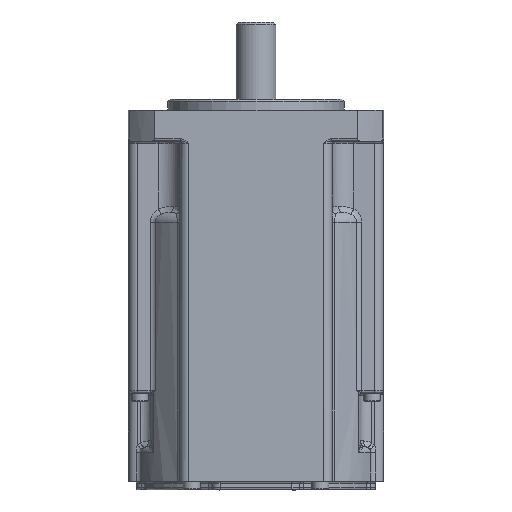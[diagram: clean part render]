
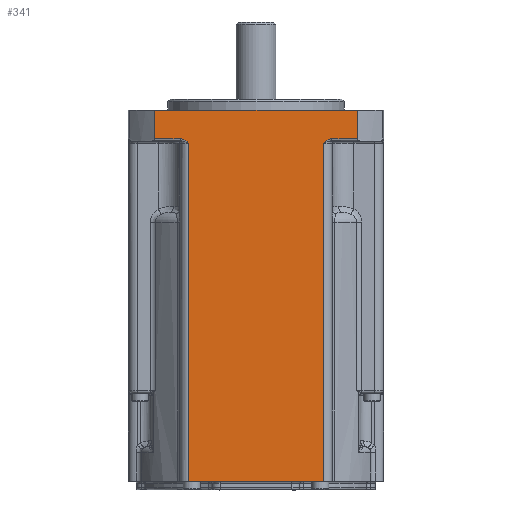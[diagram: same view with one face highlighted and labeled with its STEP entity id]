
A CAD part, front view. The second image highlights one B-rep face of the part: STEP entity #341.
In plain terms, the highlighted planar face has unit normal (0, -1, 0).
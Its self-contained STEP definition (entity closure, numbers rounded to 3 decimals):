
#41 = VERTEX_POINT ( 'NONE', #15378 ) ;
#81 = EDGE_CURVE ( 'NONE', #41, #350, #15494, .T. ) ;
#108 = ORIENTED_EDGE ( 'NONE', *, *, #81, .T. ) ;
#200 = ORIENTED_EDGE ( 'NONE', *, *, #297, .T. ) ;
#272 = ORIENTED_EDGE ( 'NONE', *, *, #9715, .F. ) ;
#290 = VERTEX_POINT ( 'NONE', #15336 ) ;
#291 = ORIENTED_EDGE ( 'NONE', *, *, #292, .T. ) ;
#292 = EDGE_CURVE ( 'NONE', #290, #294, #15335, .T. ) ;
#294 = VERTEX_POINT ( 'NONE', #15331 ) ;
#295 = EDGE_CURVE ( 'NONE', #355, #9694, #15329, .T. ) ;
#297 = EDGE_CURVE ( 'NONE', #9813, #41, #15330, .T. ) ;
#308 = EDGE_CURVE ( 'NONE', #350, #351, #15374, .T. ) ;
#333 = ORIENTED_EDGE ( 'NONE', *, *, #334, .T. ) ;
#334 = EDGE_CURVE ( 'NONE', #351, #358, #15572, .T. ) ;
#341 = ADVANCED_FACE ( 'NONE', ( #15716 ), #15713, .T. ) ;
#342 = EDGE_LOOP ( 'NONE', ( #344, #333, #359, #362, #291, #352, #356, #272, #200, #108 ) ) ;
#344 = ORIENTED_EDGE ( 'NONE', *, *, #308, .T. ) ;
#350 = VERTEX_POINT ( 'NONE', #15623 ) ;
#351 = VERTEX_POINT ( 'NONE', #15620 ) ;
#352 = ORIENTED_EDGE ( 'NONE', *, *, #354, .T. ) ;
#354 = EDGE_CURVE ( 'NONE', #294, #355, #15711, .T. ) ;
#355 = VERTEX_POINT ( 'NONE', #15710 ) ;
#356 = ORIENTED_EDGE ( 'NONE', *, *, #295, .T. ) ;
#358 = VERTEX_POINT ( 'NONE', #15712 ) ;
#359 = ORIENTED_EDGE ( 'NONE', *, *, #360, .T. ) ;
#360 = EDGE_CURVE ( 'NONE', #358, #361, #15701, .T. ) ;
#361 = VERTEX_POINT ( 'NONE', #15697 ) ;
#362 = ORIENTED_EDGE ( 'NONE', *, *, #363, .T. ) ;
#363 = EDGE_CURVE ( 'NONE', #361, #290, #15696, .T. ) ;
#3602 = CARTESIAN_POINT ( 'NONE',  ( -15.232, -29., -85. ) ) ;
#3748 = CARTESIAN_POINT ( 'NONE',  ( 15.232, -29., -85. ) ) ;
#3759 = DIRECTION ( 'NONE',  ( -1., 0., 0. ) ) ;
#3760 = VECTOR ( 'NONE', #3759, 1000. ) ;
#3761 = CARTESIAN_POINT ( 'NONE',  ( -17.215, -29., -85. ) ) ;
#3762 = LINE ( 'NONE', #3761, #3760 ) ;
#9694 = VERTEX_POINT ( 'NONE', #3602 ) ;
#9715 = EDGE_CURVE ( 'NONE', #9813, #9694, #3762, .T. ) ;
#9813 = VERTEX_POINT ( 'NONE', #3748 ) ;
#15326 = DIRECTION ( 'NONE',  ( 0., 0., -1. ) ) ;
#15327 = VECTOR ( 'NONE', #15326, 1000. ) ;
#15328 = CARTESIAN_POINT ( 'NONE',  ( -15.232, -29., -85. ) ) ;
#15329 = LINE ( 'NONE', #15328, #15327 ) ;
#15330 = LINE ( 'NONE', #15377, #15376 ) ;
#15331 = CARTESIAN_POINT ( 'NONE',  ( -17.226, -29., -7.304 ) ) ;
#15332 = DIRECTION ( 'NONE',  ( 1., 0., 0. ) ) ;
#15333 = VECTOR ( 'NONE', #15332, 1000. ) ;
#15334 = CARTESIAN_POINT ( 'NONE',  ( -15.232, -29., -7.304 ) ) ;
#15335 = LINE ( 'NONE', #15334, #15333 ) ;
#15336 = CARTESIAN_POINT ( 'NONE',  ( -22.978, -29., -7.304 ) ) ;
#15371 = DIRECTION ( 'NONE',  ( 1., 0., 0. ) ) ;
#15372 = VECTOR ( 'NONE', #15371, 1000. ) ;
#15373 = CARTESIAN_POINT ( 'NONE',  ( 25.277, -29., -7.304 ) ) ;
#15374 = LINE ( 'NONE', #15373, #15372 ) ;
#15375 = DIRECTION ( 'NONE',  ( 0., 0., 1. ) ) ;
#15376 = VECTOR ( 'NONE', #15375, 1000. ) ;
#15377 = CARTESIAN_POINT ( 'NONE',  ( 15.232, -29., -7.8 ) ) ;
#15378 = CARTESIAN_POINT ( 'NONE',  ( 15.232, -29., -8.296 ) ) ;
#15486 = CARTESIAN_POINT ( 'NONE',  ( 17.226, -29., -7.304 ) ) ;
#15487 = CARTESIAN_POINT ( 'NONE',  ( 17.035, -29., -7.304 ) ) ;
#15488 = CARTESIAN_POINT ( 'NONE',  ( 16.847, -29., -7.339 ) ) ;
#15489 = CARTESIAN_POINT ( 'NONE',  ( 16.485, -29., -7.454 ) ) ;
#15490 = CARTESIAN_POINT ( 'NONE',  ( 16.315, -29., -7.534 ) ) ;
#15491 = CARTESIAN_POINT ( 'NONE',  ( 15.823, -29., -7.815 ) ) ;
#15492 = CARTESIAN_POINT ( 'NONE',  ( 15.526, -29., -8.056 ) ) ;
#15493 = CARTESIAN_POINT ( 'NONE',  ( 15.232, -29., -8.296 ) ) ;
#15494 = B_SPLINE_CURVE_WITH_KNOTS ( 'NONE', 3,
 ( #15493, #15492, #15491, #15490, #15489, #15488, #15487, #15486 ),
 .UNSPECIFIED., .F., .F.,
 ( 4, 2, 2, 4 ),
 ( 0., 0.001, 0.002, 0.002 ),
 .UNSPECIFIED. ) ;
#15569 = DIRECTION ( 'NONE',  ( 0., 0., 1. ) ) ;
#15570 = VECTOR ( 'NONE', #15569, 1000. ) ;
#15571 = CARTESIAN_POINT ( 'NONE',  ( 22.978, -29., 4.953 ) ) ;
#15572 = LINE ( 'NONE', #15571, #15570 ) ;
#15620 = CARTESIAN_POINT ( 'NONE',  ( 22.978, -29., -7.304 ) ) ;
#15621 = DIRECTION ( 'NONE',  ( 1., 0., 0. ) ) ;
#15622 = DIRECTION ( 'NONE',  ( 0., -1., 0. ) ) ;
#15623 = CARTESIAN_POINT ( 'NONE',  ( 17.226, -29., -7.304 ) ) ;
#15693 = DIRECTION ( 'NONE',  ( 0., 0., -1. ) ) ;
#15694 = VECTOR ( 'NONE', #15693, 1000. ) ;
#15695 = CARTESIAN_POINT ( 'NONE',  ( -22.978, -29., 4.953 ) ) ;
#15696 = LINE ( 'NONE', #15695, #15694 ) ;
#15697 = CARTESIAN_POINT ( 'NONE',  ( -22.978, -29., -0.8 ) ) ;
#15698 = DIRECTION ( 'NONE',  ( -1., 0., 0. ) ) ;
#15699 = VECTOR ( 'NONE', #15698, 1000. ) ;
#15700 = CARTESIAN_POINT ( 'NONE',  ( -29., -29., -0.8 ) ) ;
#15701 = LINE ( 'NONE', #15700, #15699 ) ;
#15702 = CARTESIAN_POINT ( 'NONE',  ( -15.232, -29., -8.296 ) ) ;
#15703 = CARTESIAN_POINT ( 'NONE',  ( -15.525, -29., -8.056 ) ) ;
#15704 = CARTESIAN_POINT ( 'NONE',  ( -15.823, -29., -7.815 ) ) ;
#15705 = CARTESIAN_POINT ( 'NONE',  ( -16.315, -29., -7.534 ) ) ;
#15706 = CARTESIAN_POINT ( 'NONE',  ( -16.485, -29., -7.454 ) ) ;
#15707 = CARTESIAN_POINT ( 'NONE',  ( -16.847, -29., -7.339 ) ) ;
#15708 = CARTESIAN_POINT ( 'NONE',  ( -17.035, -29., -7.304 ) ) ;
#15709 = CARTESIAN_POINT ( 'NONE',  ( -17.226, -29., -7.304 ) ) ;
#15710 = CARTESIAN_POINT ( 'NONE',  ( -15.232, -29., -8.296 ) ) ;
#15711 = B_SPLINE_CURVE_WITH_KNOTS ( 'NONE', 3,
 ( #15709, #15708, #15707, #15706, #15705, #15704, #15703, #15702 ),
 .UNSPECIFIED., .F., .F.,
 ( 4, 2, 2, 4 ),
 ( 0., 0.001, 0.001, 0.002 ),
 .UNSPECIFIED. ) ;
#15712 = CARTESIAN_POINT ( 'NONE',  ( 22.978, -29., -0.8 ) ) ;
#15713 = PLANE ( 'NONE',  #15715 ) ;
#15714 = CARTESIAN_POINT ( 'NONE',  ( -29., -29., -7.8 ) ) ;
#15715 = AXIS2_PLACEMENT_3D ( 'NONE', #15714, #15622, #15621 ) ;
#15716 = FACE_OUTER_BOUND ( 'NONE', #342, .T. ) ;
